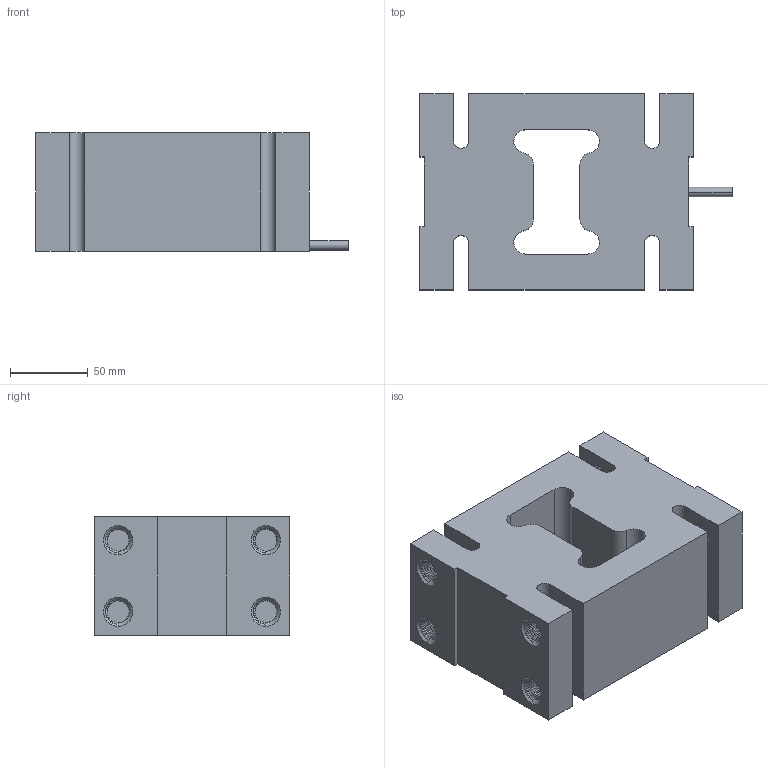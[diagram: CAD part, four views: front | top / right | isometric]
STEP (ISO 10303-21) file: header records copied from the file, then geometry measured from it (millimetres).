
FILE_DESCRIPTION (( 'STEP AP214' ), '1' );
FILE_NAME ('Soemer-1320.STEP', '2023-10-04T14:14:47', ( '' ), ( '' ), 'SwSTEP 2.0', 'SolidWorks 2019', '' );
FILE_SCHEMA (( 'AUTOMOTIVE_DESIGN' ));
Length unit declared in the file: millimetre
Products named in the file (2): Soemer-1320
Bounding box: 200.96 x 126 x 76 mm (x, y, z)
Volume: 1290094.9 mm3; surface area: 135653.7 mm2
Topology: 1 solids, 1 shells, 260 faces, 764 edges, 505 vertices
Faces by surface type: cylinder 182, plane 36, bspline 26, cone 16
Entity records: 29368 total; most frequent: CARTESIAN_POINT 21681, ORIENTED_EDGE 1528, DIRECTION 920, EDGE_CURVE 764, VERTEX_POINT 505, AXIS2_PLACEMENT_3D 316, LINE 288, VECTOR 288
